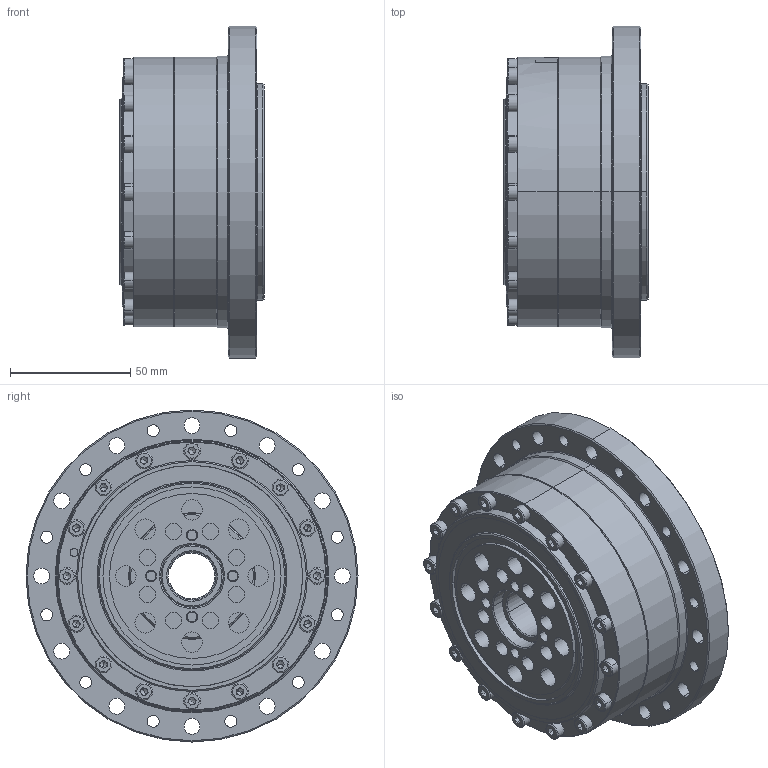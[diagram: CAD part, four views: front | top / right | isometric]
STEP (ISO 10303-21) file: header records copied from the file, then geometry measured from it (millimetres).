
FILE_DESCRIPTION (( 'STEP AP214' ), '1' );
FILE_NAME ('CSF-32-xxx-II.STEP', '2021-07-17T02:45:05', ( 'PC' ), ( 'Microsoft' ), 'SwSTEP 2.0', 'SolidWorks 2016', '' );
FILE_SCHEMA (( 'AUTOMOTIVE_DESIGN' ));
Length unit declared in the file: millimetre
Products named in the file (17): 蝠脫粣創-蚐猾-CSF-32; 蝠脫粣創-幗赽-朴5; 32-交叉轴承内圈; 32-交叉轴承外圈; CSF-32-xxx-II; 32-疏楷汜ん; 32柔性轴承; 芧謫-SF-32; hexagon socket head cap screws gb_GB_FASTENER_SCREWS_HSHCS M4X25-C; 32-詩謫; hexagon socket head cap screws gb_GB_FASTENER_SCREWS_HSHCS M8X20-C; 32-柔轮定位法兰; 5x16种隊; 32-柔轮; SF-32蝠脫粣創; hexagon socket head cap screws gb_GB_FASTENER_SCREWS_HSHCS M4X12-C; 32-蝠脫粣創黑芛
Assembly tree (88 placements, depth 3):
  CSF-32-xxx-II
    SF-32蝠脫粣創
      32-交叉轴承外圈
      32-交叉轴承内圈
      蝠脫粣創-幗赽-朴5  x48
      蝠脫粣創-蚐猾-CSF-32
      32-蝠脫粣創黑芛
      hexagon socket head cap screws gb_GB_FASTENER_SCREWS_HSHCS M4X12-C
    32-柔轮
    5x16种隊  x4
    32-柔轮定位法兰
    hexagon socket head cap screws gb_GB_FASTENER_SCREWS_HSHCS M8X20-C  x8
    32-詩謫
    hexagon socket head cap screws gb_GB_FASTENER_SCREWS_HSHCS M4X25-C  x16
    32-疏楷汜ん
      芧謫-SF-32
      32柔性轴承
Bounding box: 60 x 138 x 138 mm (x, y, z)
Volume: 420162.6 mm3; surface area: 199080.7 mm2
Topology: 86 solids, 86 shells, 1572 faces, 3425 edges, 2042 vertices
Faces by surface type: plane 543, cylinder 519, cone 430, torus 72, bspline 8
Entity records: 25618 total; most frequent: CARTESIAN_POINT 7793, DIRECTION 3684, ORIENTED_EDGE 2910, AXIS2_PLACEMENT_3D 1553, EDGE_CURVE 1455, VERTEX_POINT 916, EDGE_LOOP 865, CIRCLE 846
